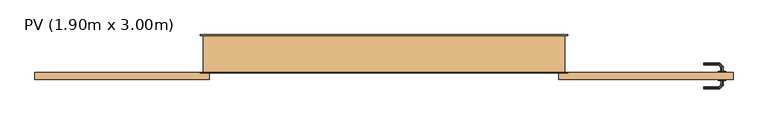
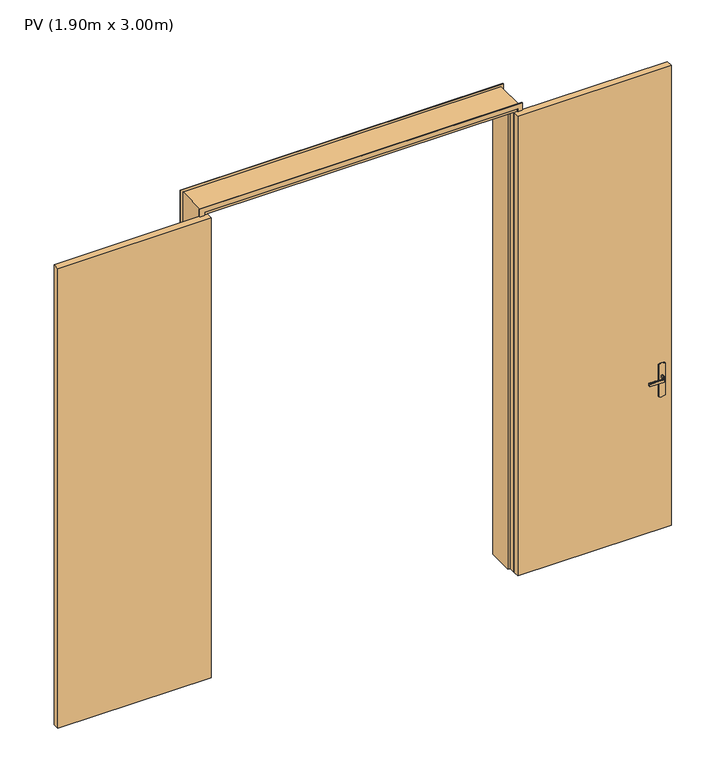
"""IFC4 building model written with IfcOpenShell, lengths in millimetres: door geometry, PV (1.90m x 3.00m)."""

from ifc_helpers import new_model, si_unit, frame, origin, origin_with_axes, place, context, project, spatial, polyline, outline, extrude, faceted_brep, source, transform, mapped, element, save


def pv_1_90m_x_3_00m_83ab53b9(model_context):
    return source(origin(), model_context, "Body", "SolidModel", [
        faceted_brep([(2827.0252987, -45.0, 1007.7804408), (2831.0, -45.0, 1007.0), (2831.0, -45.0, 993.0), (2827.0252987, -45.0, 992.2195592), (2822.9747013, -45.0, 992.2195592), (2819.0, -45.0, 993.0), (2819.0, -45.0, 1007.0), (2822.9747013, -45.0, 1007.7804408), (2819.0, -67.4852045, 993.0), (2819.0, -67.4852045, 1007.0), (2822.9747013, -69.1315797, 1007.7804408), (2809.1610938, -82.9451872, 1007.7804408), (2810.8389062, -86.9957845, 1007.7804408), (2827.0252987, -70.8093921, 1007.7804408), (2831.0, -72.4557673, 1007.0), (2831.0, -72.4557673, 993.0), (2827.0252987, -70.8093921, 992.2195592), (2810.8389062, -86.9957845, 992.2195592), (2809.1610938, -82.9451872, 992.2195592), (2822.9747013, -69.1315797, 992.2195592), (2807.5147186, -78.9704859, 993.0), (2807.5147186, -78.9704859, 1007.0), (2812.4852814, -90.9704859, 1007.0), (2812.4852814, -90.9704859, 993.0), (2724.9542163, -78.9704859, 993.0), (2724.9542163, -82.9451872, 992.2195592), (2724.9542163, -86.9957845, 992.2195592), (2724.9542163, -90.9704859, 993.0), (2724.9542163, -90.9704859, 1007.0), (2724.9542163, -86.9957845, 1007.7804408), (2724.9542163, -82.9451872, 1007.7804408), (2724.9542163, -78.9704859, 1007.0), (2766.2344794, -78.9704859, 993.0), (2766.2344675, -78.9704859, 1007.0), (2767.0576551, -84.9704859, 1007.8786868), (2772.5547942, -90.9704859, 1007.0), (2772.5547957, -90.9704859, 993.0), (2767.0576549, -84.9704858, 992.1213132)], [[[0, 1, 2, 3, 4, 5, 6, 7]], [[6, 5, 8, 9]], [[9, 10, 7, 6]], [[10, 11, 12, 13, 0, 7]], [[13, 14, 1, 0]], [[2, 1, 14, 15]], [[15, 16, 3, 2]], [[16, 17, 18, 19, 4, 3]], [[19, 8, 5, 4]], [[9, 8, 20, 21]], [[21, 11, 10, 9]], [[12, 22, 14, 13]], [[15, 14, 22, 23]], [[23, 17, 16, 15]], [[18, 20, 8, 19]], [[24, 25, 26, 27, 28, 29, 30, 31]], [[21, 20, 32, 24, 31, 33]], [[33, 30, 34]], [[35, 34, 29]], [[21, 33, 11]], [[33, 31, 30]], [[28, 35, 29]], [[22, 12, 35]], [[35, 12, 34]], [[12, 11, 34]], [[11, 33, 34]], [[29, 34, 30]], [[22, 35, 28, 27, 36, 23]], [[36, 26, 37]], [[27, 26, 36]], [[17, 23, 36]], [[37, 32, 18]], [[20, 18, 32]], [[32, 25, 24]], [[26, 25, 37]], [[25, 32, 37]], [[17, 36, 37]], [[17, 37, 18]]]),
        extrude(outline(polyline([(1083.9960169, 2814.6472382), (1080.0, 2805.0), (870.0, 2805.0), (866.0039831, 2814.6472382), (864.6410162, 2825.0), (866.0039831, 2835.3527618), (870.0, 2845.0), (1080.0, 2845.0), (1083.9960169, 2835.3527618), (1085.3589838, 2825.0), (1083.9960169, 2814.6472382)])), frame((0.0, 0.0, 0.0), z_axis=(0.0, 1.0, 0.0), x_axis=(0.0, 0.0, 1.0)), (0.0, 0.0, 1.0), 5.0),
        extrude(outline(polyline([(0.0, -15.0), (0.0, 15.0), (3030.0, 15.0), (3030.0, 1955.0), (0.0, 1955.0), (0.0, 1985.0), (3060.0, 1985.0), (3060.0, -15.0), (0.0, -15.0)])), frame((0.0, 200.0, 0.0), z_axis=(0.0, 1.0, 0.0), x_axis=(0.0, 0.0, 1.0)), (0.0, 0.0, 1.0), 5.0),
        extrude(outline(polyline([(1083.9960169, 2814.6472382), (1080.0, 2805.0), (870.0, 2805.0), (866.0039831, 2814.6472382), (864.6410162, 2825.0), (866.0039831, 2835.3527618), (870.0, 2845.0), (1080.0, 2845.0), (1083.9960169, 2835.3527618), (1085.3589838, 2825.0), (1083.9960169, 2814.6472382)])), frame((0.0, -45.0, 0.0), z_axis=(0.0, 1.0, 0.0), x_axis=(0.0, 0.0, 1.0)), (0.0, 0.0, 1.0), 5.0),
        faceted_brep([(0.0, 0.0, 0.0), (0.0, 200.0, 0.0), (50.0, 200.0, 0.0), (50.0, 40.0, 0.0), (35.0, 40.0, 0.0), (35.0, 0.0, 0.0), (0.0, 0.0, 3045.0), (0.0, 200.0, 3045.0), (1970.0, 200.0, 3045.0), (1970.0, 200.0, 0.0), (1920.0, 200.0, 0.0), (1920.0, 200.0, 2995.0), (50.0, 200.0, 2995.0), (50.0, 40.0, 2995.0), (1920.0, 40.0, 2995.0), (1920.0, 40.0, 0.0), (1935.0, 40.0, 0.0), (1935.0, 40.0, 3010.0), (35.0, 40.0, 3010.0), (35.0, 0.0, 3010.0), (1935.0, 0.0, 3010.0), (1935.0, 0.0, 0.0), (1970.0, 0.0, 0.0), (1970.0, 0.0, 3045.0)], [[[0, 1, 2, 3, 4, 5]], [[1, 0, 6, 7]], [[2, 1, 7, 8, 9, 10, 11, 12]], [[3, 2, 12, 13]], [[4, 3, 13, 14, 15, 16, 17, 18]], [[5, 4, 18, 19]], [[0, 5, 19, 20, 21, 22, 23, 6]], [[8, 23, 22, 9]], [[22, 21, 16, 15, 10, 9]], [[14, 11, 10, 15]], [[20, 17, 16, 21]], [[7, 6, 23, 8]], [[13, 12, 11, 14]], [[19, 18, 17, 20]]]),
        extrude(outline(polyline([(0.0, -15.0), (0.0, 15.0), (3030.0, 15.0), (3030.0, 1955.0), (0.0, 1955.0), (0.0, 1985.0), (3060.0, 1985.0), (3060.0, -15.0), (0.0, -15.0)])), frame((0.0, -5.0, 0.0), z_axis=(0.0, 1.0, 0.0), x_axis=(0.0, 0.0, 1.0)), (0.0, 0.0, 1.0), 5.0),
        extrude(outline(polyline([(-915.0, -40.0), (-915.0, 0.0), (35.0, 0.0), (35.0, -40.0), (-915.0, -40.0)])), origin_with_axes(), (0.0, 0.0, 1.0), 3010.0),
        faceted_brep([(2827.0252987, 5.0, 1007.7804408), (2822.9747013, 5.0, 1007.7804408), (2819.0, 5.0, 1007.0), (2819.0, 5.0, 993.0), (2822.9747013, 5.0, 992.2195592), (2827.0252987, 5.0, 992.2195592), (2831.0, 5.0, 993.0), (2831.0, 5.0, 1007.0), (2831.0, 32.6509507, 1007.0), (2827.0252987, 31.0045755, 1007.7804408), (2810.9764148, 47.0534593, 1007.7804408), (2809.2986025, 43.002862, 1007.7804408), (2822.9747013, 29.3267632, 1007.7804408), (2819.0, 27.680388, 1007.0), (2819.0, 27.680388, 993.0), (2822.9747013, 29.3267632, 992.2195592), (2809.2986025, 43.002862, 992.2195592), (2810.9764148, 47.0534593, 992.2195592), (2827.0252987, 31.0045755, 992.2195592), (2831.0, 32.6509507, 993.0), (2812.62279, 51.0281607, 1007.0), (2807.6522273, 39.0281607, 1007.0), (2807.6522273, 39.0281607, 993.0), (2812.62279, 51.0281607, 993.0), (2724.9813594, 51.0281607, 993.0), (2724.9813594, 47.0534593, 992.2195592), (2724.9813594, 43.002862, 992.2195592), (2724.9813594, 39.0281607, 993.0), (2724.9813594, 39.0281607, 1007.0), (2724.9813594, 43.002862, 1007.7804408), (2724.9813594, 47.0534593, 1007.7804408), (2724.9813594, 51.0281607, 1007.0), (2772.6923028, 51.0281607, 1007.0), (2767.1399809, 45.0281607, 1007.8786868), (2766.3167933, 39.0281607, 1007.0), (2766.3167933, 39.0281607, 993.0), (2767.1399811, 45.0281608, 992.1213132), (2772.6922998, 51.0281607, 993.0)], [[[0, 1, 2, 3, 4, 5, 6, 7]], [[8, 9, 0, 7]], [[9, 10, 11, 12, 1, 0]], [[12, 13, 2, 1]], [[3, 2, 13, 14]], [[14, 15, 4, 3]], [[15, 16, 17, 18, 5, 4]], [[18, 19, 6, 5]], [[7, 6, 19, 8]], [[20, 10, 9, 8]], [[11, 21, 13, 12]], [[14, 13, 21, 22]], [[22, 16, 15, 14]], [[17, 23, 19, 18]], [[8, 19, 23, 20]], [[24, 25, 26, 27, 28, 29, 30, 31]], [[32, 30, 33]], [[31, 30, 32]], [[10, 20, 32]], [[33, 34, 11]], [[21, 11, 34]], [[34, 29, 28]], [[30, 29, 33]], [[29, 34, 33]], [[10, 32, 33]], [[10, 33, 11]], [[22, 21, 34, 28, 27, 35]], [[35, 26, 36]], [[37, 36, 25]], [[22, 35, 16]], [[35, 27, 26]], [[24, 37, 25]], [[23, 17, 37]], [[37, 17, 36]], [[17, 16, 36]], [[16, 35, 36]], [[25, 36, 26]], [[20, 23, 37, 24, 31, 32]]]),
        extrude(outline(polyline([(2885.0, -40.0), (1935.0, -40.0), (1935.0, 0.0), (2885.0, 0.0), (2885.0, -40.0)])), origin_with_axes(), (0.0, 0.0, 1.0), 3010.0),
    ])


if __name__ == "__main__":
    model = new_model("IFC4")
    model_context = context("Model", 3, world=origin())
    ifc_project = project(units=[si_unit("LENGTHUNIT", "METRE", prefix="MILLI")], contexts=[model_context])
    site = spatial("IfcSite", under=ifc_project)
    building = spatial("IfcBuilding", under=site)
    placement = place(None, origin())
    pv_1_90m_x_3_00m_shape = pv_1_90m_x_3_00m_83ab53b9(model_context)
    element("IfcDoor", 1, ObjectType="PV (1.90m x 3.00m)", at=placement, inside=building, context=model_context, shape_type="MappedRepresentation", body=[
        mapped(pv_1_90m_x_3_00m_shape, transform((0.0, 0.0, 0.0), x_axis=(1.0, 0.0, 0.0), y_axis=(0.0, 1.0, 0.0), z_axis=(0.0, 0.0, 1.0))),
    ])
    save(model, "model.ifc")
